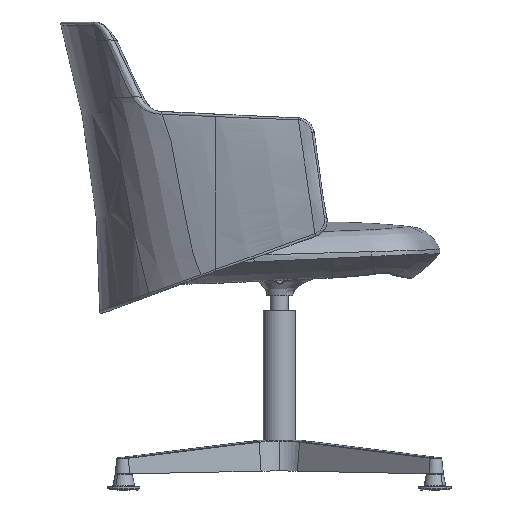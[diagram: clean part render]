
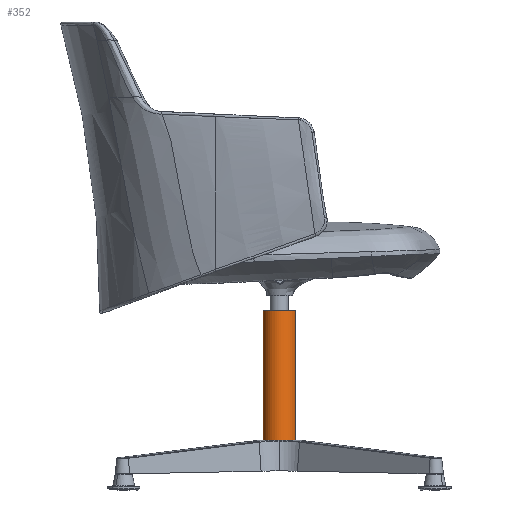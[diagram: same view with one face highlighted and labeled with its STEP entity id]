
A CAD part, left-side view. The second image highlights one B-rep face of the part: STEP entity #352.
In plain terms, the highlighted free-form (B-spline) face has degree [2, 1] with [5, 2] control points.
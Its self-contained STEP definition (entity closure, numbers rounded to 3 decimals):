
#352=ADVANCED_FACE('',(#606),#3995,.T.);
#606=FACE_OUTER_BOUND('',#868,.T.);
#868=EDGE_LOOP('',(#1747,#1748,#1749,#1750));
#1747=ORIENTED_EDGE('',*,*,#2622,.T.);
#1748=ORIENTED_EDGE('',*,*,#2619,.T.);
#1749=ORIENTED_EDGE('',*,*,#2623,.F.);
#1750=ORIENTED_EDGE('',*,*,#2621,.F.);
#2619=EDGE_CURVE('',#3804,#3805,#3388,.T.);
#2621=EDGE_CURVE('',#3806,#3807,#2909,.T.);
#2622=EDGE_CURVE('',#3806,#3804,#2910,.T.);
#2623=EDGE_CURVE('',#3807,#3805,#2911,.T.);
#2909=(
BOUNDED_CURVE()
B_SPLINE_CURVE(1,(#55865,#55866),.UNSPECIFIED.,.F.,.F.)
B_SPLINE_CURVE_WITH_KNOTS((2,2),(0.,176.011),.UNSPECIFIED.)
CURVE()
GEOMETRIC_REPRESENTATION_ITEM()
RATIONAL_B_SPLINE_CURVE((1.,1.))
REPRESENTATION_ITEM('')
);
#2910=(
BOUNDED_CURVE()
B_SPLINE_CURVE(2,(#55867,#55868,#55869,#55870,#55871),.UNSPECIFIED.,.F.,
 .F.)
B_SPLINE_CURVE_WITH_KNOTS((3,2,3),(-75.398,-37.699,
0.),.UNSPECIFIED.)
CURVE()
GEOMETRIC_REPRESENTATION_ITEM()
RATIONAL_B_SPLINE_CURVE((1.,0.707,1.,0.707,1.))
REPRESENTATION_ITEM('')
);
#2911=(
BOUNDED_CURVE()
B_SPLINE_CURVE(2,(#55872,#55873,#55874,#55875,#55876),.UNSPECIFIED.,.F.,
 .F.)
B_SPLINE_CURVE_WITH_KNOTS((3,2,3),(-75.398,-37.699,
0.),.UNSPECIFIED.)
CURVE()
GEOMETRIC_REPRESENTATION_ITEM()
RATIONAL_B_SPLINE_CURVE((1.,0.707,1.,0.707,1.))
REPRESENTATION_ITEM('')
);
#3388=B_SPLINE_CURVE_WITH_KNOTS('',1,(#55858,#55859),.UNSPECIFIED.,.F.,
 .F.,(2,2),(0.,176.011),.UNSPECIFIED.);
#3804=VERTEX_POINT('',#55849);
#3805=VERTEX_POINT('',#55850);
#3806=VERTEX_POINT('',#55851);
#3807=VERTEX_POINT('',#55852);
#3995=(
BOUNDED_SURFACE()
B_SPLINE_SURFACE(2,1,((#55839,#55840),(#55841,#55842),(#55843,#55844),(#55845,
#55846),(#55847,#55848)),.UNSPECIFIED.,.F.,.F.,.F.)
B_SPLINE_SURFACE_WITH_KNOTS((3,2,3),(2,2),(-75.398,-37.699,
0.),(0.,176.011),.UNSPECIFIED.)
GEOMETRIC_REPRESENTATION_ITEM()
RATIONAL_B_SPLINE_SURFACE(((1.,1.),(0.707,0.707),
(1.,1.),(0.707,0.707),(1.,1.)))
REPRESENTATION_ITEM('')
SURFACE()
);
#55839=CARTESIAN_POINT('',(0.142,-25.,224.9));
#55840=CARTESIAN_POINT('',(0.142,-25.,0.431));
#55841=CARTESIAN_POINT('',(-24.858,-25.,224.9));
#55842=CARTESIAN_POINT('',(-24.858,-25.,0.431));
#55843=CARTESIAN_POINT('',(-24.858,0.,224.9));
#55844=CARTESIAN_POINT('',(-24.858,0.,0.431));
#55845=CARTESIAN_POINT('',(-24.858,25.,224.9));
#55846=CARTESIAN_POINT('',(-24.858,25.,0.431));
#55847=CARTESIAN_POINT('',(0.142,25.,224.9));
#55848=CARTESIAN_POINT('',(0.142,25.,0.431));
#55849=CARTESIAN_POINT('',(0.142,25.,224.9));
#55850=CARTESIAN_POINT('',(0.142,25.,0.431));
#55851=CARTESIAN_POINT('',(0.142,-25.,224.9));
#55852=CARTESIAN_POINT('',(0.142,-25.,0.431));
#55858=CARTESIAN_POINT('',(0.142,25.,224.9));
#55859=CARTESIAN_POINT('',(0.142,25.,0.431));
#55865=CARTESIAN_POINT('',(0.142,-25.,224.9));
#55866=CARTESIAN_POINT('',(0.142,-25.,0.431));
#55867=CARTESIAN_POINT('',(0.142,-25.,224.9));
#55868=CARTESIAN_POINT('',(-24.858,-25.,224.9));
#55869=CARTESIAN_POINT('',(-24.858,0.,224.9));
#55870=CARTESIAN_POINT('',(-24.858,25.,224.9));
#55871=CARTESIAN_POINT('',(0.142,25.,224.9));
#55872=CARTESIAN_POINT('',(0.142,-25.,0.431));
#55873=CARTESIAN_POINT('',(-24.858,-25.,0.431));
#55874=CARTESIAN_POINT('',(-24.858,0.,0.431));
#55875=CARTESIAN_POINT('',(-24.858,25.,0.431));
#55876=CARTESIAN_POINT('',(0.142,25.,0.431));
